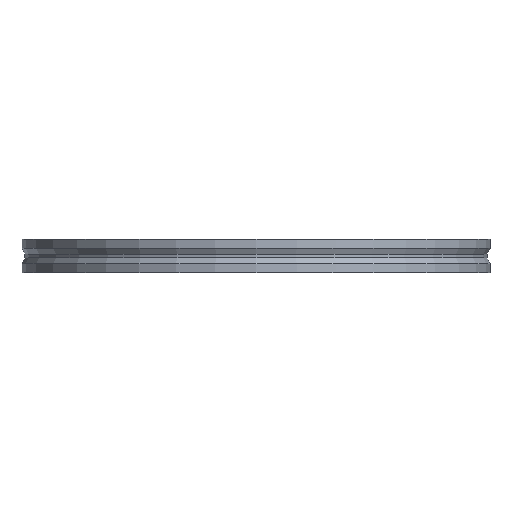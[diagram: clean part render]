
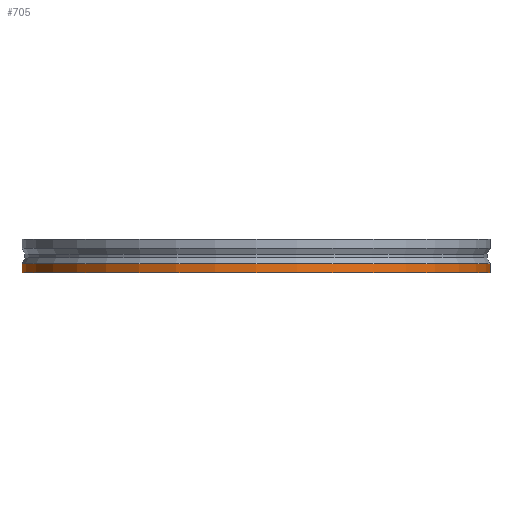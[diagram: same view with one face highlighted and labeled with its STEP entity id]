
A CAD part, front view. The second image highlights one B-rep face of the part: STEP entity #705.
In plain terms, the highlighted cylindrical face has radius 62.5 mm (diameter 125 mm), a partial arc.
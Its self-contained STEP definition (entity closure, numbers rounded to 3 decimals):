
#4 = VERTEX_POINT ( 'NONE', #786 ) ;
#25 = CARTESIAN_POINT ( 'NONE',  ( 0., 0., 0. ) ) ;
#28 = ORIENTED_EDGE ( 'NONE', *, *, #803, .T. ) ;
#33 = CARTESIAN_POINT ( 'NONE',  ( 62.5, 0., -6.537 ) ) ;
#63 = VECTOR ( 'NONE', #937, 1000. ) ;
#67 = CARTESIAN_POINT ( 'NONE',  ( -62.5, 0., 0. ) ) ;
#70 = ORIENTED_EDGE ( 'NONE', *, *, #347, .F. ) ;
#92 = CIRCLE ( 'NONE', #373, 62.5 ) ;
#104 = VECTOR ( 'NONE', #476, 1000. ) ;
#142 = DIRECTION ( 'NONE',  ( 1., 0., 0. ) ) ;
#176 = FACE_OUTER_BOUND ( 'NONE', #796, .T. ) ;
#182 = CARTESIAN_POINT ( 'NONE',  ( 62.5, 0., 0. ) ) ;
#308 = DIRECTION ( 'NONE',  ( 0., 0., 1. ) ) ;
#314 = EDGE_CURVE ( 'NONE', #834, #4, #492, .T. ) ;
#347 = EDGE_CURVE ( 'NONE', #4, #768, #92, .T. ) ;
#373 = AXIS2_PLACEMENT_3D ( 'NONE', #929, #856, #437 ) ;
#385 = VERTEX_POINT ( 'NONE', #660 ) ;
#437 = DIRECTION ( 'NONE',  ( 1., 0., 0. ) ) ;
#476 = DIRECTION ( 'NONE',  ( 0., 0., 1. ) ) ;
#492 = LINE ( 'NONE', #67, #63 ) ;
#516 = AXIS2_PLACEMENT_3D ( 'NONE', #662, #800, #142 ) ;
#609 = ORIENTED_EDGE ( 'NONE', *, *, #314, .F. ) ;
#614 = DIRECTION ( 'NONE',  ( 1., 0., 0. ) ) ;
#642 = ORIENTED_EDGE ( 'NONE', *, *, #889, .T. ) ;
#654 = CARTESIAN_POINT ( 'NONE',  ( -62.5, 0., -9. ) ) ;
#660 = CARTESIAN_POINT ( 'NONE',  ( 62.5, 0., -9. ) ) ;
#662 = CARTESIAN_POINT ( 'NONE',  ( 0., 0., -9. ) ) ;
#682 = CYLINDRICAL_SURFACE ( 'NONE', #700, 62.5 ) ;
#700 = AXIS2_PLACEMENT_3D ( 'NONE', #25, #308, #614 ) ;
#705 = ADVANCED_FACE ( 'NONE', ( #176 ), #682, .T. ) ;
#768 = VERTEX_POINT ( 'NONE', #33 ) ;
#786 = CARTESIAN_POINT ( 'NONE',  ( -62.5, 0., -6.537 ) ) ;
#796 = EDGE_LOOP ( 'NONE', ( #609, #642, #28, #70 ) ) ;
#800 = DIRECTION ( 'NONE',  ( 0., 0., 1. ) ) ;
#803 = EDGE_CURVE ( 'NONE', #385, #768, #842, .T. ) ;
#834 = VERTEX_POINT ( 'NONE', #654 ) ;
#842 = LINE ( 'NONE', #182, #104 ) ;
#856 = DIRECTION ( 'NONE',  ( 0., 0., 1. ) ) ;
#889 = EDGE_CURVE ( 'NONE', #834, #385, #946, .T. ) ;
#929 = CARTESIAN_POINT ( 'NONE',  ( 0., 0., -6.537 ) ) ;
#937 = DIRECTION ( 'NONE',  ( 0., 0., 1. ) ) ;
#946 = CIRCLE ( 'NONE', #516, 62.5 ) ;
